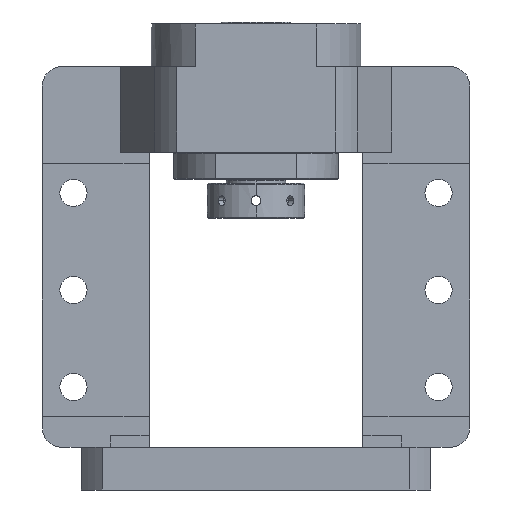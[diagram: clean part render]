
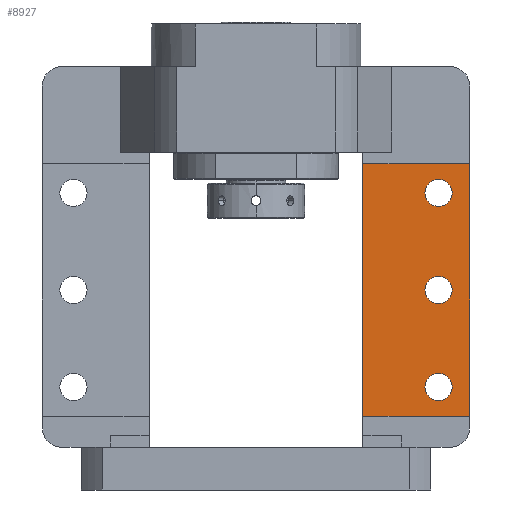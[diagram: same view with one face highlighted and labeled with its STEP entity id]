
A CAD part, front view. The second image highlights one B-rep face of the part: STEP entity #8927.
In plain terms, the highlighted planar face has unit normal (0, -1, 0).
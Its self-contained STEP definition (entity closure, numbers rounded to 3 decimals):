
#79 = CARTESIAN_POINT ( 'NONE',  ( 55., 0., 38. ) ) ;
#160 = AXIS2_PLACEMENT_3D ( 'NONE', #13066, #5404, #14347 ) ;
#172 = AXIS2_PLACEMENT_3D ( 'NONE', #3869, #12825, #5156 ) ;
#219 = EDGE_CURVE ( 'NONE', #4327, #8554, #11613, .T. ) ;
#398 = CARTESIAN_POINT ( 'NONE',  ( 55., 0., 225. ) ) ;
#503 = DIRECTION ( 'NONE',  ( 0., -1., 0. ) ) ;
#704 = VERTEX_POINT ( 'NONE', #6887 ) ;
#1392 = CARTESIAN_POINT ( 'NONE',  ( 94., 0., 96. ) ) ;
#1593 = DIRECTION ( 'NONE',  ( -1., 0., 0. ) ) ;
#1756 = VECTOR ( 'NONE', #1955, 1000. ) ;
#1779 = AXIS2_PLACEMENT_3D ( 'NONE', #13313, #5661, #14592 ) ;
#1830 = CARTESIAN_POINT ( 'NONE',  ( 94., 0., 60. ) ) ;
#1955 = DIRECTION ( 'NONE',  ( 0., 0., -1. ) ) ;
#2427 = VERTEX_POINT ( 'NONE', #9234 ) ;
#2508 = EDGE_CURVE ( 'NONE', #704, #10499, #3932, .T. ) ;
#2708 = ORIENTED_EDGE ( 'NONE', *, *, #12042, .F. ) ;
#3101 = VERTEX_POINT ( 'NONE', #1392 ) ;
#3145 = FACE_BOUND ( 'NONE', #12113, .T. ) ;
#3490 = LINE ( 'NONE', #10598, #6922 ) ;
#3513 = EDGE_CURVE ( 'NONE', #4057, #3101, #13913, .T. ) ;
#3838 = ORIENTED_EDGE ( 'NONE', *, *, #4237, .T. ) ;
#3869 = CARTESIAN_POINT ( 'NONE',  ( 94., 0., 53. ) ) ;
#3932 = LINE ( 'NONE', #10575, #10359 ) ;
#3982 = EDGE_CURVE ( 'NONE', #704, #4327, #3490, .T. ) ;
#4057 = VERTEX_POINT ( 'NONE', #15799 ) ;
#4237 = EDGE_CURVE ( 'NONE', #8554, #10499, #15035, .T. ) ;
#4327 = VERTEX_POINT ( 'NONE', #15376 ) ;
#4872 = ORIENTED_EDGE ( 'NONE', *, *, #219, .T. ) ;
#5156 = DIRECTION ( 'NONE',  ( 0., 0., -1. ) ) ;
#5394 = AXIS2_PLACEMENT_3D ( 'NONE', #13878, #15158, #7533 ) ;
#5404 = DIRECTION ( 'NONE',  ( 0., -1., 0. ) ) ;
#5455 = DIRECTION ( 'NONE',  ( 0., 0., -1. ) ) ;
#5661 = DIRECTION ( 'NONE',  ( 0., -1., 0. ) ) ;
#5815 = CIRCLE ( 'NONE', #9980, 7. ) ;
#6004 = DIRECTION ( 'NONE',  ( 0., -1., 0. ) ) ;
#6085 = CIRCLE ( 'NONE', #160, 7. ) ;
#6099 = EDGE_CURVE ( 'NONE', #3101, #4057, #5815, .T. ) ;
#6347 = DIRECTION ( 'NONE',  ( 1., 0., 0. ) ) ;
#6403 = EDGE_CURVE ( 'NONE', #6723, #7575, #9028, .T. ) ;
#6556 = ORIENTED_EDGE ( 'NONE', *, *, #13339, .F. ) ;
#6723 = VERTEX_POINT ( 'NONE', #7380 ) ;
#6790 = CARTESIAN_POINT ( 'NONE',  ( 110., 0., 38. ) ) ;
#6887 = CARTESIAN_POINT ( 'NONE',  ( 110., 0., 168. ) ) ;
#6912 = EDGE_LOOP ( 'NONE', ( #16014, #11756 ) ) ;
#6922 = VECTOR ( 'NONE', #1593, 1000. ) ;
#7358 = DIRECTION ( 'NONE',  ( 0., -1., 0. ) ) ;
#7380 = CARTESIAN_POINT ( 'NONE',  ( 94., 0., 46. ) ) ;
#7533 = DIRECTION ( 'NONE',  ( 0., 0., -1. ) ) ;
#7575 = VERTEX_POINT ( 'NONE', #1830 ) ;
#7579 = VERTEX_POINT ( 'NONE', #10836 ) ;
#8221 = CARTESIAN_POINT ( 'NONE',  ( 94., 0., 53. ) ) ;
#8554 = VERTEX_POINT ( 'NONE', #79 ) ;
#8927 = ADVANCED_FACE ( 'NONE', ( #12961, #16320, #3145, #9564 ), #12603, .T. ) ;
#9028 = CIRCLE ( 'NONE', #172, 7. ) ;
#9234 = CARTESIAN_POINT ( 'NONE',  ( 94., 0., 160. ) ) ;
#9497 = ORIENTED_EDGE ( 'NONE', *, *, #3513, .F. ) ;
#9498 = DIRECTION ( 'NONE',  ( 0., 0., -1. ) ) ;
#9564 = FACE_OUTER_BOUND ( 'NONE', #10387, .T. ) ;
#9953 = AXIS2_PLACEMENT_3D ( 'NONE', #14986, #7358, #16254 ) ;
#9980 = AXIS2_PLACEMENT_3D ( 'NONE', #13648, #6004, #14933 ) ;
#10359 = VECTOR ( 'NONE', #5455, 1000. ) ;
#10387 = EDGE_LOOP ( 'NONE', ( #11614, #12995, #4872, #3838 ) ) ;
#10499 = VERTEX_POINT ( 'NONE', #6790 ) ;
#10575 = CARTESIAN_POINT ( 'NONE',  ( 110., 0., 225. ) ) ;
#10598 = CARTESIAN_POINT ( 'NONE',  ( 110., 0., 168. ) ) ;
#10836 = CARTESIAN_POINT ( 'NONE',  ( 94., 0., 146. ) ) ;
#10910 = CIRCLE ( 'NONE', #1779, 7. ) ;
#11444 = CARTESIAN_POINT ( 'NONE',  ( 110., 0., 38. ) ) ;
#11613 = LINE ( 'NONE', #398, #1756 ) ;
#11614 = ORIENTED_EDGE ( 'NONE', *, *, #2508, .F. ) ;
#11663 = VECTOR ( 'NONE', #6347, 1000. ) ;
#11756 = ORIENTED_EDGE ( 'NONE', *, *, #16496, .F. ) ;
#12042 = EDGE_CURVE ( 'NONE', #2427, #7579, #6085, .T. ) ;
#12113 = EDGE_LOOP ( 'NONE', ( #13143, #9497 ) ) ;
#12603 = PLANE ( 'NONE',  #5394 ) ;
#12825 = DIRECTION ( 'NONE',  ( 0., -1., 0. ) ) ;
#12961 = FACE_BOUND ( 'NONE', #14098, .T. ) ;
#12995 = ORIENTED_EDGE ( 'NONE', *, *, #3982, .T. ) ;
#13066 = CARTESIAN_POINT ( 'NONE',  ( 94., 0., 153. ) ) ;
#13143 = ORIENTED_EDGE ( 'NONE', *, *, #6099, .F. ) ;
#13299 = CIRCLE ( 'NONE', #13820, 7. ) ;
#13313 = CARTESIAN_POINT ( 'NONE',  ( 94., 0., 153. ) ) ;
#13339 = EDGE_CURVE ( 'NONE', #7579, #2427, #10910, .T. ) ;
#13648 = CARTESIAN_POINT ( 'NONE',  ( 94., 0., 103. ) ) ;
#13820 = AXIS2_PLACEMENT_3D ( 'NONE', #8221, #503, #9498 ) ;
#13878 = CARTESIAN_POINT ( 'NONE',  ( 110., 0., 225. ) ) ;
#13913 = CIRCLE ( 'NONE', #9953, 7. ) ;
#14098 = EDGE_LOOP ( 'NONE', ( #6556, #2708 ) ) ;
#14347 = DIRECTION ( 'NONE',  ( 0., 0., -1. ) ) ;
#14592 = DIRECTION ( 'NONE',  ( 0., 0., -1. ) ) ;
#14933 = DIRECTION ( 'NONE',  ( 0., 0., -1. ) ) ;
#14986 = CARTESIAN_POINT ( 'NONE',  ( 94., 0., 103. ) ) ;
#15035 = LINE ( 'NONE', #11444, #11663 ) ;
#15158 = DIRECTION ( 'NONE',  ( 0., -1., 0. ) ) ;
#15376 = CARTESIAN_POINT ( 'NONE',  ( 55., 0., 168. ) ) ;
#15799 = CARTESIAN_POINT ( 'NONE',  ( 94., 0., 110. ) ) ;
#16014 = ORIENTED_EDGE ( 'NONE', *, *, #6403, .F. ) ;
#16254 = DIRECTION ( 'NONE',  ( 0., 0., -1. ) ) ;
#16320 = FACE_BOUND ( 'NONE', #6912, .T. ) ;
#16496 = EDGE_CURVE ( 'NONE', #7575, #6723, #13299, .T. ) ;
